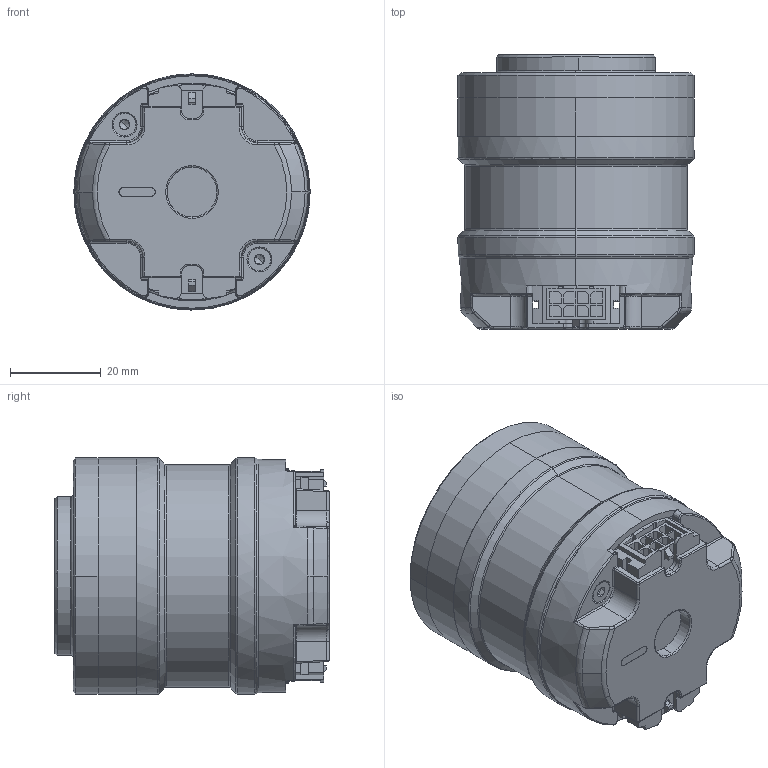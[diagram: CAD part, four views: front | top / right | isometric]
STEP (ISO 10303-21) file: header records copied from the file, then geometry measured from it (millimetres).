
FILE_DESCRIPTION (( 'STEP AP214' ), '1' );
FILE_NAME ('QDD-3510-6_v2_2.STEP', '2019-05-09T02:48:06', ( 'Microsoft' ), ( 'Microsoft' ), 'SwSTEP 2.0', 'SolidWorks 2018', '' );
FILE_SCHEMA (( 'AUTOMOTIVE_DESIGN' ));
Length unit declared in the file: millimetre
Products named in the file (1): QDD-3510-6_v2_2
Bounding box: 52 x 60.4 x 52 mm (x, y, z)
Volume: 96536.7 mm3; surface area: 51117 mm2
Topology: 22 solids, 22 shells, 1668 faces, 4210 edges, 2596 vertices
Faces by surface type: plane 937, cylinder 368, cone 176, bspline 99, torus 83, sphere 5
Entity records: 74329 total; most frequent: CARTESIAN_POINT 17317, ORIENTED_EDGE 8326, DIRECTION 7298, EDGE_CURVE 4163, LINE 2676, VECTOR 2676, VERTEX_POINT 2596, AXIS2_PLACEMENT_3D 2311
